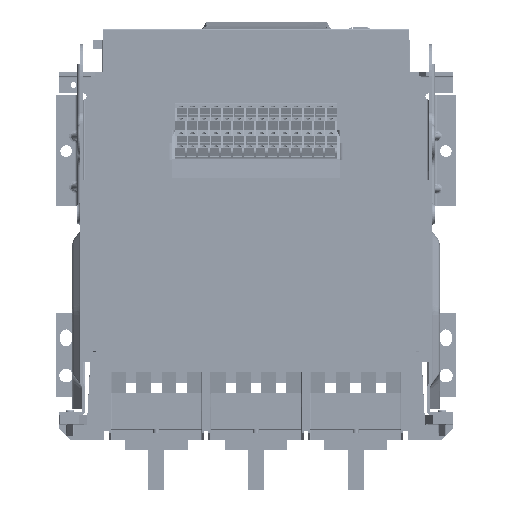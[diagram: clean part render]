
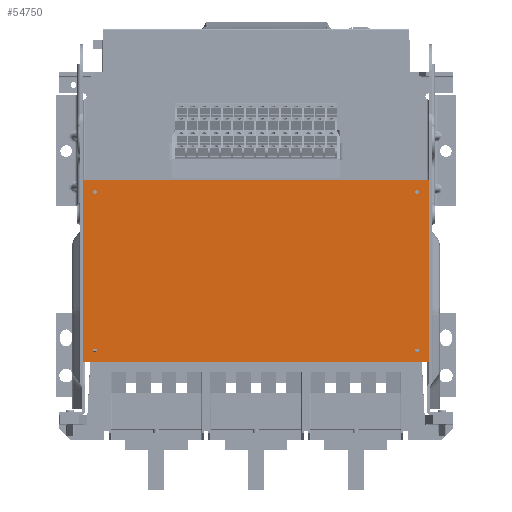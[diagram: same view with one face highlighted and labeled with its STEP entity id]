
A CAD part, front view. The second image highlights one B-rep face of the part: STEP entity #54750.
In plain terms, the highlighted planar face has unit normal (0, -1, 0).
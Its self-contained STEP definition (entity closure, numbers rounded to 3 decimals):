
#52839=DIRECTION('',(0.,0.,1.));
#52840=VECTOR('',#52839,173.);
#52841=CARTESIAN_POINT('',(-164.5,0.,-86.5));
#52842=LINE('',#52841,#52840);
#52846=DIRECTION('',(1.,0.,0.));
#52847=VECTOR('',#52846,329.);
#52848=CARTESIAN_POINT('',(-164.5,0.,86.5));
#52849=LINE('',#52848,#52847);
#52853=DIRECTION('',(0.,0.,-1.));
#52854=VECTOR('',#52853,173.);
#52855=CARTESIAN_POINT('',(164.5,0.,86.5));
#52856=LINE('',#52855,#52854);
#52860=DIRECTION('',(-1.,0.,0.));
#52861=VECTOR('',#52860,329.);
#52862=CARTESIAN_POINT('',(164.5,0.,-86.5));
#52863=LINE('',#52862,#52861);
#52867=CARTESIAN_POINT('',(-153.5,0.,75.5));
#52868=DIRECTION('',(0.,-1.,0.));
#52869=DIRECTION('',(1.,0.,0.));
#52870=AXIS2_PLACEMENT_3D('',#52867,#52868,#52869);
#52875=CARTESIAN_POINT('',(-153.5,0.,75.5));
#52876=DIRECTION('',(0.,-1.,0.));
#52877=DIRECTION('',(-1.,0.,0.));
#52878=AXIS2_PLACEMENT_3D('',#52875,#52876,#52877);
#52883=CARTESIAN_POINT('',(153.5,0.,75.5));
#52884=DIRECTION('',(0.,-1.,0.));
#52885=DIRECTION('',(1.,0.,0.));
#52886=AXIS2_PLACEMENT_3D('',#52883,#52884,#52885);
#52891=CARTESIAN_POINT('',(153.5,0.,75.5));
#52892=DIRECTION('',(0.,-1.,0.));
#52893=DIRECTION('',(-1.,0.,0.));
#52894=AXIS2_PLACEMENT_3D('',#52891,#52892,#52893);
#52899=CARTESIAN_POINT('',(153.5,0.,-75.5));
#52900=DIRECTION('',(0.,-1.,0.));
#52901=DIRECTION('',(1.,0.,0.));
#52902=AXIS2_PLACEMENT_3D('',#52899,#52900,#52901);
#52907=CARTESIAN_POINT('',(153.5,0.,-75.5));
#52908=DIRECTION('',(0.,-1.,0.));
#52909=DIRECTION('',(-1.,0.,0.));
#52910=AXIS2_PLACEMENT_3D('',#52907,#52908,#52909);
#52915=CARTESIAN_POINT('',(-153.5,0.,-75.5));
#52916=DIRECTION('',(0.,-1.,0.));
#52917=DIRECTION('',(1.,0.,0.));
#52918=AXIS2_PLACEMENT_3D('',#52915,#52916,#52917);
#52923=CARTESIAN_POINT('',(-153.5,0.,-75.5));
#52924=DIRECTION('',(0.,-1.,0.));
#52925=DIRECTION('',(-1.,0.,0.));
#52926=AXIS2_PLACEMENT_3D('',#52923,#52924,#52925);
#54419=CARTESIAN_POINT('',(-164.5,0.,-86.5));
#54420=CARTESIAN_POINT('',(-164.5,0.,86.5));
#54421=VERTEX_POINT('',#54419);
#54422=VERTEX_POINT('',#54420);
#54423=CARTESIAN_POINT('',(164.5,0.,86.5));
#54424=VERTEX_POINT('',#54423);
#54425=CARTESIAN_POINT('',(164.5,0.,-86.5));
#54426=VERTEX_POINT('',#54425);
#54615=CARTESIAN_POINT('',(-151.75,0.,75.5));
#54616=CARTESIAN_POINT('',(-155.25,0.,75.5));
#54617=VERTEX_POINT('',#54615);
#54618=VERTEX_POINT('',#54616);
#54619=CARTESIAN_POINT('',(155.25,0.,75.5));
#54620=CARTESIAN_POINT('',(151.75,0.,75.5));
#54621=VERTEX_POINT('',#54619);
#54622=VERTEX_POINT('',#54620);
#54623=CARTESIAN_POINT('',(155.25,0.,-75.5));
#54624=CARTESIAN_POINT('',(151.75,0.,-75.5));
#54625=VERTEX_POINT('',#54623);
#54626=VERTEX_POINT('',#54624);
#54627=CARTESIAN_POINT('',(-151.75,0.,-75.5));
#54628=CARTESIAN_POINT('',(-155.25,0.,-75.5));
#54629=VERTEX_POINT('',#54627);
#54630=VERTEX_POINT('',#54628);
#54711=CARTESIAN_POINT('',(0.,0.,0.));
#54712=DIRECTION('',(0.,1.,0.));
#54713=DIRECTION('',(1.,0.,0.));
#54714=AXIS2_PLACEMENT_3D('',#54711,#54712,#54713);
#54715=PLANE('',#54714);
#54717=ORIENTED_EDGE('',*,*,#54716,.T.);
#54719=ORIENTED_EDGE('',*,*,#54718,.T.);
#54721=ORIENTED_EDGE('',*,*,#54720,.T.);
#54723=ORIENTED_EDGE('',*,*,#54722,.T.);
#54724=EDGE_LOOP('',(#54717,#54719,#54721,#54723));
#54725=FACE_OUTER_BOUND('',#54724,.F.);
#54727=ORIENTED_EDGE('',*,*,#54726,.T.);
#54729=ORIENTED_EDGE('',*,*,#54728,.T.);
#54730=EDGE_LOOP('',(#54727,#54729));
#54731=FACE_BOUND('',#54730,.F.);
#54733=ORIENTED_EDGE('',*,*,#54732,.T.);
#54735=ORIENTED_EDGE('',*,*,#54734,.T.);
#54736=EDGE_LOOP('',(#54733,#54735));
#54737=FACE_BOUND('',#54736,.F.);
#54739=ORIENTED_EDGE('',*,*,#54738,.T.);
#54741=ORIENTED_EDGE('',*,*,#54740,.T.);
#54742=EDGE_LOOP('',(#54739,#54741));
#54743=FACE_BOUND('',#54742,.F.);
#54745=ORIENTED_EDGE('',*,*,#54744,.T.);
#54747=ORIENTED_EDGE('',*,*,#54746,.T.);
#54748=EDGE_LOOP('',(#54745,#54747));
#54749=FACE_BOUND('',#54748,.F.);
#54750=ADVANCED_FACE('',(#54725,#54731,#54737,#54743,#54749),#54715,.F.);
#52871=CIRCLE('',#52870,1.75);
#52879=CIRCLE('',#52878,1.75);
#52887=CIRCLE('',#52886,1.75);
#52895=CIRCLE('',#52894,1.75);
#52903=CIRCLE('',#52902,1.75);
#52911=CIRCLE('',#52910,1.75);
#52919=CIRCLE('',#52918,1.75);
#52927=CIRCLE('',#52926,1.75);
#54716=EDGE_CURVE('',#54421,#54422,#52842,.T.);
#54718=EDGE_CURVE('',#54422,#54424,#52849,.T.);
#54720=EDGE_CURVE('',#54424,#54426,#52856,.T.);
#54722=EDGE_CURVE('',#54426,#54421,#52863,.T.);
#54726=EDGE_CURVE('',#54617,#54618,#52871,.T.);
#54728=EDGE_CURVE('',#54618,#54617,#52879,.T.);
#54732=EDGE_CURVE('',#54621,#54622,#52887,.T.);
#54734=EDGE_CURVE('',#54622,#54621,#52895,.T.);
#54738=EDGE_CURVE('',#54625,#54626,#52903,.T.);
#54740=EDGE_CURVE('',#54626,#54625,#52911,.T.);
#54744=EDGE_CURVE('',#54629,#54630,#52919,.T.);
#54746=EDGE_CURVE('',#54630,#54629,#52927,.T.);
